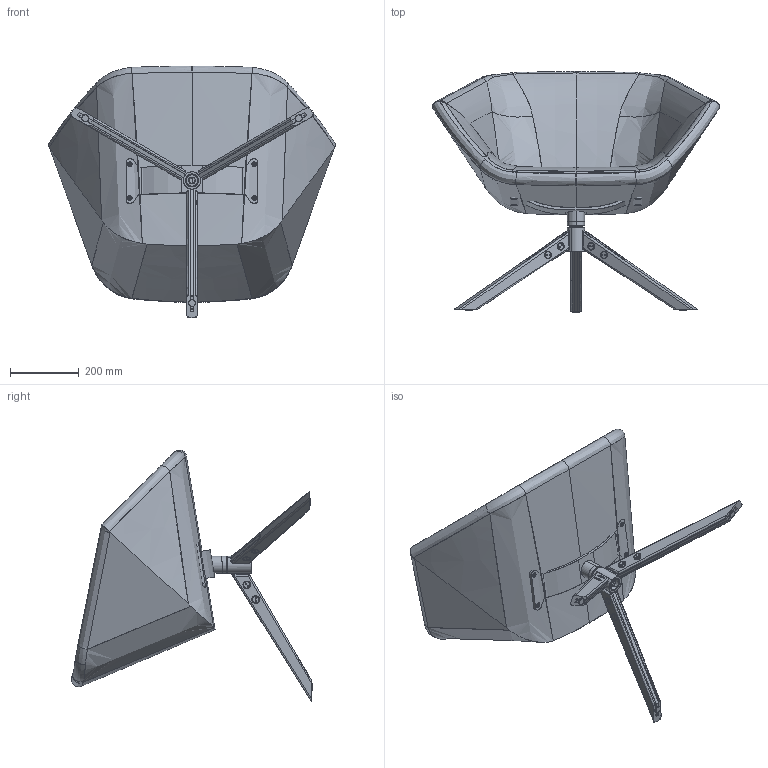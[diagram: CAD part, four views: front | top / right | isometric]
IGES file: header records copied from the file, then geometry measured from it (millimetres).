
Start section: SolidWorks IGES file using analytic representation for surfaces
Global section: file name: G:\Product Info\Ella\3D\IGS\Ella draaivoet hout 3-poot.IGS; native system: SolidWorks 2012; preprocessor: SolidWorks 2012; author: remko; date: 121218.110242; units: millimetre
Bounding box: 834.19 x 700.92 x 732.33 mm (x, y, z)
Surface area: 1927234 mm2 (no closed solid volume)
Topology: 0 solids, 0 shells, 782 faces, 12773 edges, 12740 vertices
Faces by surface type: revolution 498, bspline 284
